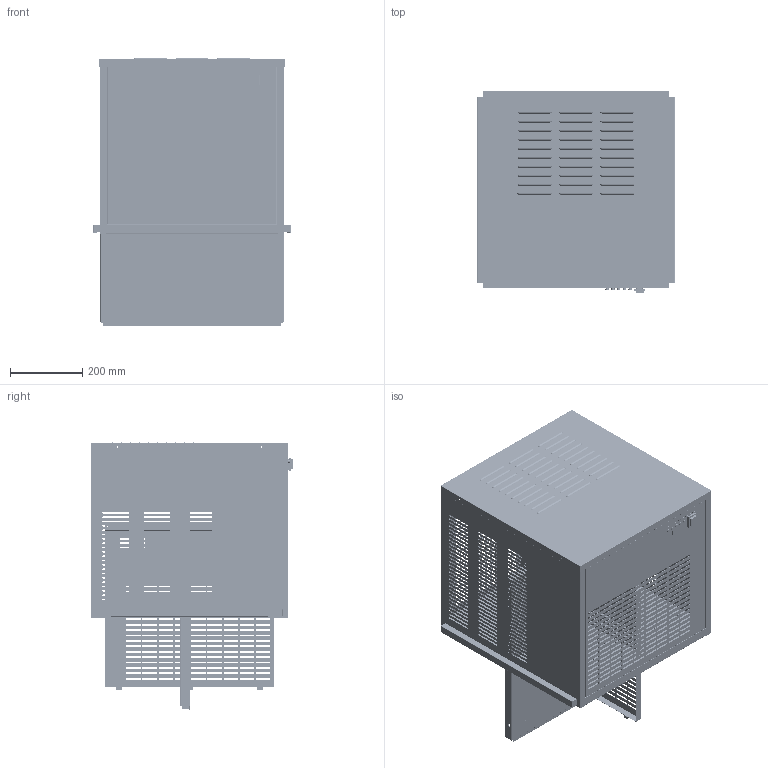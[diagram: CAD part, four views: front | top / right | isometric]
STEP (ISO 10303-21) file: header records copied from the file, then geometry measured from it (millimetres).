
FILE_DESCRIPTION( ( 'Unknown' ), '1' );
FILE_NAME( 'T:/M/MAQUINAS 3D/ICE-TECH/GR/ICE TECH GR 140.stp', 'Unknown', ( 'Unknown' ), ( 'Unknown' ), 'XStep 1.0', 'Unknown', ' ' );
FILE_SCHEMA( ( 'CONFIG_CONTROL_DESIGN' ) );
Length unit declared in the file: millimetre
Products named in the file (12): Assem1; Assem2; 1; 2; 3; 4; 5; 6; 7; 8; 9; 10
Bounding box: 547.7 x 561.1 x 742.45 mm (x, y, z)
Volume: 2657371.2 mm3; surface area: 6640574.3 mm2
Topology: 30 solids, 33 shells, 8385 faces, 24101 edges, 15755 vertices
Faces by surface type: plane 6695, cylinder 1366, sphere 264, bspline 48, extrusion 12
Full cylindrical faces by diameter (mm): 1 x105, 1.5 x12, 4 x30, 4.25 x16, 6 x60, 8 x16, 8.8 x12, 9 x15, 9.9 x12, 12 x4, 15 x2
Entity records: 128954 total; most frequent: CARTESIAN_POINT 22895, ORIENTED_EDGE 22036, DIRECTION 20244, EDGE_CURVE 11018, VECTOR 9442, LINE 9438, VERTEX_POINT 7346, EDGE_LOOP 5618
